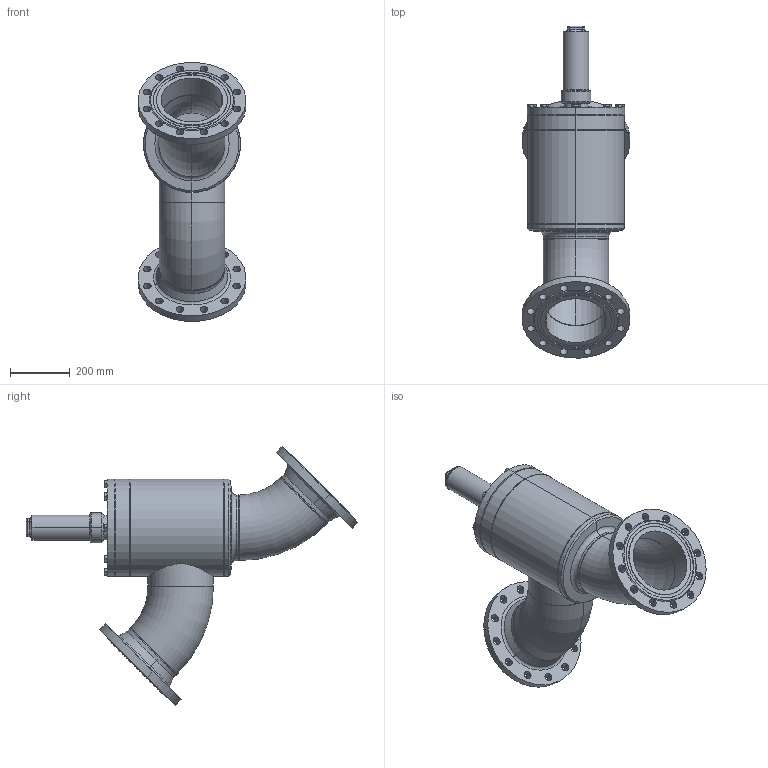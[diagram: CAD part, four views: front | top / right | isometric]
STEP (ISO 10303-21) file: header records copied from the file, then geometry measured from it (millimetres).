
FILE_DESCRIPTION (( 'STEP AP214' ), '1' );
FILE_NAME ('AVB16320C23-DN200_DIN-FL-N_PS25.STEP', '2006-04-27T12:19:35', ( 'Herr Grams' ), ( 'AWP GmbH' ), 'SwSTEP 2.0', 'SolidWorks 2002296', '' );
FILE_SCHEMA (( 'AUTOMOTIVE_DESIGN' ));
Length unit declared in the file: millimetre
Products named in the file (23): AVB16320C23-DN200_DIN-FL-N_PS25; Kappe16402_DN200-350_Standard; Gehäuse-kpl16320-DN200_DIN_PS25_Standard; Gehäuse-kpl16300-DN200_R1_Standard; Kopfstück16300-DN200_Standard; Gehäuse16300-DN200_Standard; Boden16300-DN200_Standard; Rohrstutzen-A16300-DN200_R1_Standard; Rohrbogen 45°_Rohrbogen-DN200-45°; bead-DN200-2_Standard; bead-DN200-4_Standard; bead-DN200-1_Standard; bead-DN200-3_Standard; Flansch-DIN2634-Nut_PS25_DIN-Flansch-DN200_PS25-Nut; bead-DN200-7_Standard; bead-DN200-8_Standard; AVB16300B23_Deck+Schr-DN200_Standard; Deckel-kpl16300B23-DN200_Standard; Buchse f Deckel16300-DN200_Standard; bead-deck164-200_Standard; Scheibe f Deckel16300-DN200_Standard; bead-deck163-200_Standard; Sechskantschraube-DIN933_M16x 45
Assembly tree (31 placements, depth 4):
  AVB16320C23-DN200_DIN-FL-N_PS25
    AVB16300B23_Deck+Schr-DN200_Standard
      Sechskantschraube-DIN933_M16x 45  x8
      Deckel-kpl16300B23-DN200_Standard
        Buchse f Deckel16300-DN200_Standard
        bead-deck164-200_Standard
        Scheibe f Deckel16300-DN200_Standard
        bead-deck163-200_Standard
    Kappe16402_DN200-350_Standard
    Gehäuse-kpl16320-DN200_DIN_PS25_Standard
      bead-DN200-8_Standard
      bead-DN200-7_Standard
      Gehäuse-kpl16300-DN200_R1_Standard
        bead-DN200-1_Standard
        Rohrstutzen-A16300-DN200_R1_Standard
        Kopfstück16300-DN200_Standard
        Gehäuse16300-DN200_Standard
        Rohrbogen 45°_Rohrbogen-DN200-45°  x2
        bead-DN200-4_Standard
        bead-DN200-3_Standard
        bead-DN200-2_Standard
        Boden16300-DN200_Standard
      Flansch-DIN2634-Nut_PS25_DIN-Flansch-DN200_PS25-Nut  x2
Bounding box: 358.63 x 1109.62 x 864.9 mm (x, y, z)
Volume: 17735911.9 mm3; surface area: 2853239.3 mm2
Topology: 27 solids, 27 shells, 518 faces, 1176 edges, 714 vertices
Faces by surface type: cylinder 173, cone 146, plane 137, bspline 38, torus 24
Entity records: 23369 total; most frequent: CARTESIAN_POINT 15693, DIRECTION 1440, ORIENTED_EDGE 1320, EDGE_CURVE 660, AXIS2_PLACEMENT_3D 633, VERTEX_POINT 410, EDGE_LOOP 364, CIRCLE 344
